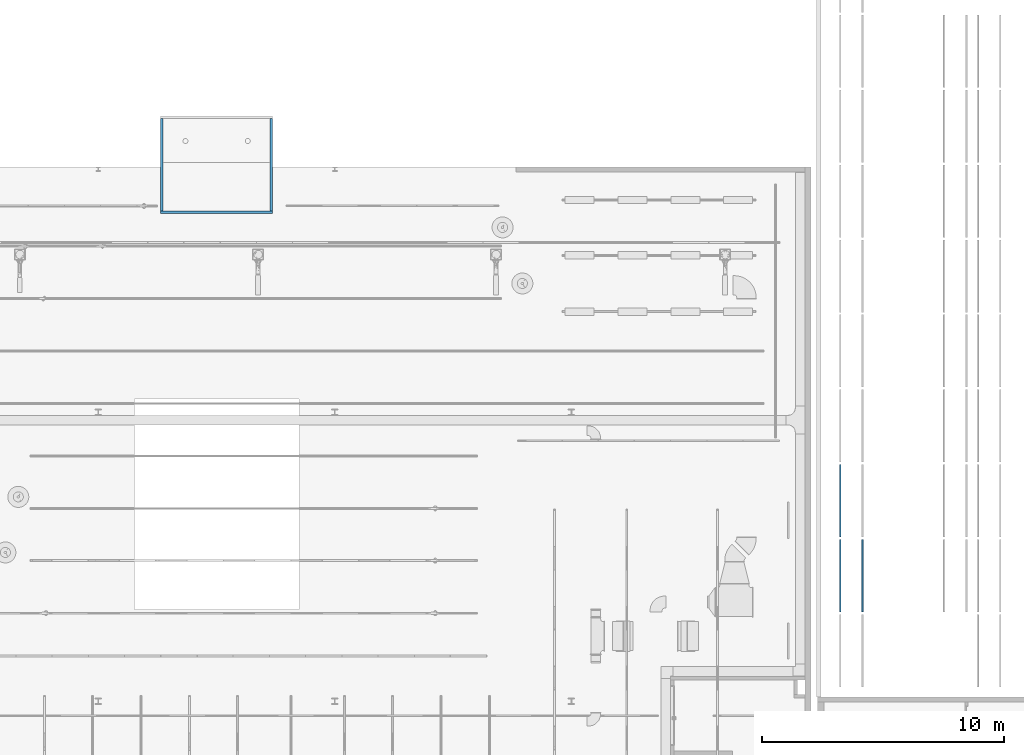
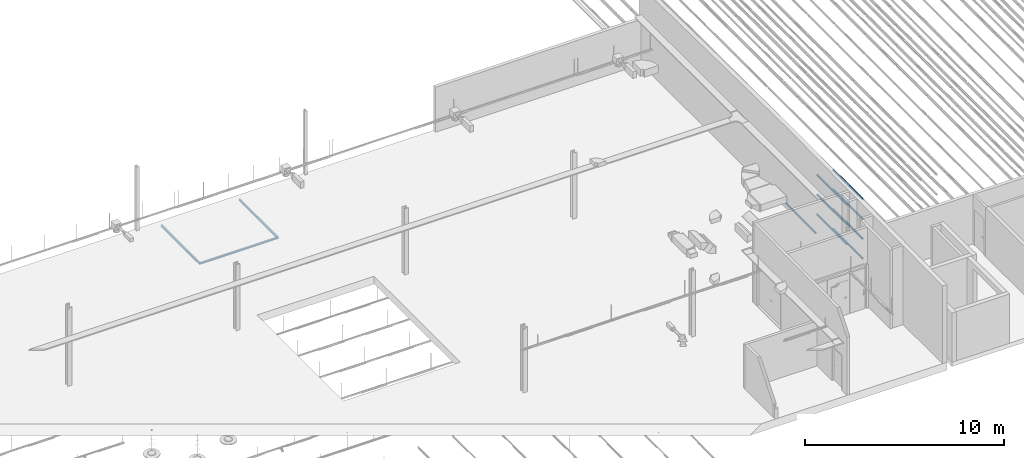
# One storey, part 9 of 290: 11 beams.
"""IFC2X3 building model written with IfcOpenShell, lengths in metres."""

from ifc_helpers import new_model, entity, si_unit, converted_unit, derived_unit, direction, frame, frame_2d, origin, place, context, subcontext, project, spatial, polyline, circle_curve, parameter, trimmed, segment, composite_curve, i_section, outline, extrude, material, type_object, element, save


model = new_model("IFC2X3")

# Units and contexts
model_context = context("Model", 3, precision=1e-05, world=origin(), true_north=direction((6.12303176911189e-17, 1.0)))
body_context = subcontext(model_context, "Body", "Model", "MODEL_VIEW")
ifc_project = project(units=[si_unit("LENGTHUNIT", "METRE"), si_unit("AREAUNIT", "SQUARE_METRE"), si_unit("VOLUMEUNIT", "CUBIC_METRE"), converted_unit("PLANEANGLEUNIT", "DEGREE", entity("IfcRatioMeasure", 0.0174532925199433), si_unit("PLANEANGLEUNIT", "RADIAN"), dimensions=[0, 0, 0, 0, 0, 0, 0]), si_unit("MASSUNIT", "GRAM", prefix="KILO"), derived_unit("MASSDENSITYUNIT", [(si_unit("MASSUNIT", "GRAM", prefix="KILO"), 1), (si_unit("LENGTHUNIT", "METRE"), -3)]), derived_unit("MOMENTOFINERTIAUNIT", [(si_unit("LENGTHUNIT", "METRE"), 4)]), si_unit("TIMEUNIT", "SECOND"), si_unit("FREQUENCYUNIT", "HERTZ"), si_unit("THERMODYNAMICTEMPERATUREUNIT", "DEGREE_CELSIUS"), derived_unit("THERMALTRANSMITTANCEUNIT", [(si_unit("MASSUNIT", "GRAM", prefix="KILO"), 1), (si_unit("THERMODYNAMICTEMPERATUREUNIT", "KELVIN"), -1), (si_unit("TIMEUNIT", "SECOND"), -3)]), derived_unit("VOLUMETRICFLOWRATEUNIT", [(si_unit("LENGTHUNIT", "METRE"), 3), (si_unit("TIMEUNIT", "SECOND"), -1)]), si_unit("ELECTRICCURRENTUNIT", "AMPERE"), si_unit("ELECTRICVOLTAGEUNIT", "VOLT"), si_unit("POWERUNIT", "WATT"), si_unit("FORCEUNIT", "NEWTON", prefix="KILO"), si_unit("ILLUMINANCEUNIT", "LUX"), si_unit("LUMINOUSFLUXUNIT", "LUMEN"), si_unit("LUMINOUSINTENSITYUNIT", "CANDELA"), derived_unit("USERDEFINED", [(si_unit("MASSUNIT", "GRAM", prefix="KILO"), -1), (si_unit("LENGTHUNIT", "METRE"), -2), (si_unit("TIMEUNIT", "SECOND"), 3), (si_unit("LUMINOUSFLUXUNIT", "LUMEN"), 1)]), derived_unit("LINEARVELOCITYUNIT", [(si_unit("LENGTHUNIT", "METRE"), 1), (si_unit("TIMEUNIT", "SECOND"), -1)]), si_unit("PRESSUREUNIT", "PASCAL"), derived_unit("USERDEFINED", [(si_unit("LENGTHUNIT", "METRE"), -2), (si_unit("MASSUNIT", "GRAM", prefix="KILO"), 1), (si_unit("TIMEUNIT", "SECOND"), -2)]), derived_unit("LINEARFORCEUNIT", [(si_unit("MASSUNIT", "GRAM", prefix="KILO"), 1), (si_unit("LENGTHUNIT", "METRE"), 1), (si_unit("TIMEUNIT", "SECOND"), -2), (si_unit("LENGTHUNIT", "METRE"), -1)]), derived_unit("PLANARFORCEUNIT", [(si_unit("MASSUNIT", "GRAM", prefix="KILO"), 1), (si_unit("LENGTHUNIT", "METRE"), 1), (si_unit("TIMEUNIT", "SECOND"), -2), (si_unit("LENGTHUNIT", "METRE"), -2)])], contexts=[model_context])

# Site, building, storey
site_placement = place(None, origin())
site = spatial("IfcSite", under=ifc_project, at=site_placement, Name="Default", CompositionType="ELEMENT")
building_placement = place(site_placement, origin())
building = spatial("IfcBuilding", under=site, at=building_placement, CompositionType="ELEMENT")
storey_placement = place(building_placement, frame((0.0, 0.0, 4.0)))
storey = spatial("IfcBuildingStorey", under=building, at=storey_placement, Name="01_OG", CompositionType="ELEMENT", Elevation=4.0)

# Beams
ifc_material_1 = material(Name="Metall - Baustahl S235")
beam_type_1 = type_object("IfcBeamType", Name="HEA Träger:HEA 100", PredefinedType="NOTDEFINED")
beam_1_placement = place(storey_placement, frame((-234.519861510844, 43.685588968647, -1.38399999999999), z_axis=(0.0, 0.0, 1.0), x_axis=(0.0, 1.0, 0.0)))
element("IfcBeam", 1, at=beam_1_placement, inside=storey, type_object=beam_type_1, material=ifc_material_1, Name="HEA Träger:HEA 100", ObjectType="HEA Träger:HEA 100", context=body_context, shape_type="SweptSolid", body=[
    extrude(i_section(OverallWidth=0.100000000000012, OverallDepth=0.0959999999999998, WebThickness=0.00500000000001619, FlangeThickness=0.00799999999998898, FilletRadius=0.0120000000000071, at=frame_2d((5.41233724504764e-16, 3.46493667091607e-14), x_axis=(0.0, 1.0))), frame((0.0525000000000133, 0.0, -0.0479999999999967), z_axis=(1.0, 0.0, 0.0), x_axis=(0.0, 0.0, -1.0)), (0.0, 0.0, 1.0), 3.82000000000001),
])
beam_2_placement = place(storey_placement, frame((-234.569861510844, 43.688088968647, -1.38400000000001)))
element("IfcBeam", 2, at=beam_2_placement, inside=storey, type_object=beam_type_1, material=ifc_material_1, Name="HEA Träger:HEA 100", ObjectType="HEA Träger:HEA 100", context=body_context, shape_type="SweptSolid", body=[
    extrude(i_section(OverallWidth=0.100000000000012, OverallDepth=0.0959999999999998, WebThickness=0.00499999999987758, FlangeThickness=0.00800000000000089, FilletRadius=0.011999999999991, at=frame_2d((5.41233724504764e-16, 0.0), x_axis=(0.0, 1.0))), frame((4.81070539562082e-05, 0.0, -0.0480000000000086), z_axis=(1.0, 0.0, 0.0), x_axis=(0.0, 0.0, -1.0)), (0.0, 0.0, 1.0), 4.6319037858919),
])
beam_3_placement = place(storey_placement, frame((-229.987861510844, 43.688088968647, -1.38399999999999), z_axis=(0.0, 0.0, 1.0), x_axis=(0.0, 1.0, 0.0)))
element("IfcBeam", 3, at=beam_3_placement, inside=storey, type_object=beam_type_1, material=ifc_material_1, Name="HEA Träger:HEA 100", ObjectType="HEA Träger:HEA 100", context=body_context, shape_type="SweptSolid", body=[
    extrude(i_section(OverallWidth=0.100000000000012, OverallDepth=0.0959999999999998, WebThickness=0.00500000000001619, FlangeThickness=0.00800000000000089, FilletRadius=0.0120000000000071, at=frame_2d((5.41233724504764e-16, 0.0), x_axis=(0.0, 1.0))), frame((0.0499999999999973, 0.0, -0.0480000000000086), z_axis=(1.0, 0.0, 0.0), x_axis=(0.0, 0.0, -1.0)), (0.0, 0.0, 1.0), 3.82),
])
ifc_material_2 = material(Name="Metall - Baustahl S235 blau")
beam_type_2 = type_object("IfcBeamType", Name="RHS Träger (EN 10219-2):RHS 100 x 75 x 5", PredefinedType="NOTDEFINED")
beam_4_placement = place(storey_placement, frame((-206.415111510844, 27.148088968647, 0.0150000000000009), z_axis=(0.0, 0.0, 1.0), x_axis=(0.0, 1.0, 0.0)))
element("IfcBeam", 4, at=beam_4_placement, inside=storey, type_object=beam_type_2, material=ifc_material_2, Name="RHS Träger (EN 10219-2):RHS 100 x 75 x 5", ObjectType="RHS Träger (EN 10219-2):RHS 100 x 75 x 5", context=body_context, shape_type="SweptSolid", body=[
    extrude(outline(composite_curve([segment(trimmed(circle_curve(frame_2d((-0.0274999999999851, -0.0400000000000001), x_axis=(1.0, 0.0)), 0.01), [parameter(180.0)], [parameter(270.0)], True, "PARAMETER"), True, "CONTINUOUS"), segment(polyline([(-0.0274999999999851, -0.05), (0.0274999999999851, -0.05)]), True, "CONTINUOUS"), segment(trimmed(circle_curve(frame_2d((0.0274999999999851, -0.0400000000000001), x_axis=(1.0, 0.0)), 0.01), [parameter(270.0)], [parameter(5.08888749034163e-14)], True, "PARAMETER"), True, "CONTINUOUS"), segment(polyline([(0.0375000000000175, -0.0400000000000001), (0.0375000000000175, 0.0400000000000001)]), True, "CONTINUOUS"), segment(trimmed(circle_curve(frame_2d((0.0274999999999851, 0.0400000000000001), x_axis=(1.0, 0.0)), 0.01), [parameter(360.0)], [parameter(89.9999999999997)], True, "PARAMETER"), True, "CONTINUOUS"), segment(polyline([(0.0274999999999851, 0.05), (-0.0274999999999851, 0.05)]), True, "CONTINUOUS"), segment(trimmed(circle_curve(frame_2d((-0.0274999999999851, 0.0400000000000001), x_axis=(1.0, 0.0)), 0.01), [parameter(90.0000000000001)], [parameter(180.0)], True, "PARAMETER"), True, "CONTINUOUS"), segment(polyline([(-0.0374999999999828, 0.0400000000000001), (-0.0374999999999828, -0.0400000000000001)]), True, "CONTINUOUS")], self_intersect=False), holes=[composite_curve([segment(polyline([(0.0274999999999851, -0.0450000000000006), (-0.0274999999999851, -0.0450000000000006)]), True, "CONTINUOUS"), segment(trimmed(circle_curve(frame_2d((-0.0274999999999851, -0.0400000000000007), x_axis=(1.0, 0.0)), 0.005), [parameter(180.0)], [parameter(270.0)], True, "PARAMETER"), False, "CONTINUOUS"), segment(polyline([(-0.0325000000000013, -0.0400000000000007), (-0.0325000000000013, 0.039999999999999)]), True, "CONTINUOUS"), segment(trimmed(circle_curve(frame_2d((-0.0274999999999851, 0.039999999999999), x_axis=(1.0, 0.0)), 0.005), [parameter(90.0000000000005)], [parameter(180.0)], True, "PARAMETER"), False, "CONTINUOUS"), segment(polyline([(-0.0274999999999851, 0.044999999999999), (0.0274999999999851, 0.044999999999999)]), True, "CONTINUOUS"), segment(trimmed(circle_curve(frame_2d((0.0274999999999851, 0.039999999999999), x_axis=(1.0, 0.0)), 0.005), [parameter(0.0)], [parameter(90.0000000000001)], True, "PARAMETER"), False, "CONTINUOUS"), segment(polyline([(0.0325000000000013, 0.039999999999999), (0.0325000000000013, -0.0400000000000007)]), True, "CONTINUOUS"), segment(trimmed(circle_curve(frame_2d((0.0274999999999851, -0.0400000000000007), x_axis=(1.0, 0.0)), 0.005), [parameter(270.0)], [parameter(4.07110999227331e-13)], True, "PARAMETER"), False, "CONTINUOUS")], self_intersect=False)]), frame((9.99999999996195e-05, 0.0375000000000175, -0.0500000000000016), z_axis=(1.0, 0.0, 0.0), x_axis=(0.0, -1.0, 0.0)), (0.0, 0.0, 1.0), 2.9998),
])
beam_5_placement = place(storey_placement, frame((-206.415111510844, 27.148088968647, 1.23), z_axis=(0.0, 0.0, 1.0), x_axis=(0.0, 1.0, 0.0)))
element("IfcBeam", 5, at=beam_5_placement, inside=storey, type_object=beam_type_2, material=ifc_material_2, Name="RHS Träger (EN 10219-2):RHS 100 x 75 x 5", ObjectType="RHS Träger (EN 10219-2):RHS 100 x 75 x 5", context=body_context, shape_type="SweptSolid", body=[
    extrude(outline(composite_curve([segment(trimmed(circle_curve(frame_2d((-0.0274999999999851, -0.0399999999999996), x_axis=(1.0, 0.0)), 0.01), [parameter(180.0)], [parameter(270.0)], True, "PARAMETER"), True, "CONTINUOUS"), segment(polyline([(-0.0274999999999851, -0.0499999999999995), (0.0274999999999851, -0.0499999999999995)]), True, "CONTINUOUS"), segment(trimmed(circle_curve(frame_2d((0.0274999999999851, -0.0399999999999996), x_axis=(1.0, 0.0)), 0.01), [parameter(270.0)], [parameter(5.08888749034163e-14)], True, "PARAMETER"), True, "CONTINUOUS"), segment(polyline([(0.0375000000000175, -0.0399999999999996), (0.0375000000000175, 0.0399999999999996)]), True, "CONTINUOUS"), segment(trimmed(circle_curve(frame_2d((0.0274999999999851, 0.0399999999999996), x_axis=(1.0, 0.0)), 0.01), [parameter(360.0)], [parameter(89.9999999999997)], True, "PARAMETER"), True, "CONTINUOUS"), segment(polyline([(0.0274999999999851, 0.0500000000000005), (-0.0274999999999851, 0.0500000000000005)]), True, "CONTINUOUS"), segment(trimmed(circle_curve(frame_2d((-0.0274999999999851, 0.0399999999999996), x_axis=(1.0, 0.0)), 0.01), [parameter(90.0000000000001)], [parameter(180.0)], True, "PARAMETER"), True, "CONTINUOUS"), segment(polyline([(-0.0374999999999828, 0.0399999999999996), (-0.0374999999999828, -0.0399999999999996)]), True, "CONTINUOUS")], self_intersect=False), holes=[composite_curve([segment(polyline([(0.0274999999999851, -0.0450000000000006), (-0.0274999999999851, -0.0450000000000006)]), True, "CONTINUOUS"), segment(trimmed(circle_curve(frame_2d((-0.0274999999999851, -0.0400000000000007), x_axis=(1.0, 0.0)), 0.005), [parameter(180.0)], [parameter(270.0)], True, "PARAMETER"), False, "CONTINUOUS"), segment(polyline([(-0.0325000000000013, -0.0400000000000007), (-0.0325000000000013, 0.0399999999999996)]), True, "CONTINUOUS"), segment(trimmed(circle_curve(frame_2d((-0.0274999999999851, 0.0399999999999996), x_axis=(1.0, 0.0)), 0.005), [parameter(90.0000000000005)], [parameter(180.0)], True, "PARAMETER"), False, "CONTINUOUS"), segment(polyline([(-0.0274999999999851, 0.0449999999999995), (0.0274999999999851, 0.0449999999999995)]), True, "CONTINUOUS"), segment(trimmed(circle_curve(frame_2d((0.0274999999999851, 0.0399999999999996), x_axis=(1.0, 0.0)), 0.005), [parameter(0.0)], [parameter(90.0000000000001)], True, "PARAMETER"), False, "CONTINUOUS"), segment(polyline([(0.0325000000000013, 0.0399999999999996), (0.0325000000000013, -0.0400000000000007)]), True, "CONTINUOUS"), segment(trimmed(circle_curve(frame_2d((0.0274999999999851, -0.0400000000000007), x_axis=(1.0, 0.0)), 0.005), [parameter(270.0)], [parameter(4.07110999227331e-13)], True, "PARAMETER"), False, "CONTINUOUS")], self_intersect=False)]), frame((9.99999999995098e-05, 0.0375000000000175, -0.0500000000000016), z_axis=(1.0, 0.0, 0.0), x_axis=(0.0, -1.0, 0.0)), (0.0, 0.0, 1.0), 2.9998),
])
beam_6_placement = place(storey_placement, frame((-206.415111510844, 27.148088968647, 2.445), z_axis=(0.0, 0.0, 1.0), x_axis=(0.0, 1.0, 0.0)))
element("IfcBeam", 6, at=beam_6_placement, inside=storey, type_object=beam_type_2, material=ifc_material_2, Name="RHS Träger (EN 10219-2):RHS 100 x 75 x 5", ObjectType="RHS Träger (EN 10219-2):RHS 100 x 75 x 5", context=body_context, shape_type="SweptSolid", body=[
    extrude(outline(composite_curve([segment(trimmed(circle_curve(frame_2d((-0.0274999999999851, -0.0399999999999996), x_axis=(1.0, 0.0)), 0.01), [parameter(180.0)], [parameter(270.0)], True, "PARAMETER"), True, "CONTINUOUS"), segment(polyline([(-0.0274999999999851, -0.0499999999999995), (0.0274999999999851, -0.0499999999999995)]), True, "CONTINUOUS"), segment(trimmed(circle_curve(frame_2d((0.0274999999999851, -0.0399999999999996), x_axis=(1.0, 0.0)), 0.01), [parameter(270.0)], [parameter(5.08888749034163e-14)], True, "PARAMETER"), True, "CONTINUOUS"), segment(polyline([(0.0375000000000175, -0.0399999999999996), (0.0375000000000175, 0.0399999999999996)]), True, "CONTINUOUS"), segment(trimmed(circle_curve(frame_2d((0.0274999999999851, 0.0399999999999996), x_axis=(1.0, 0.0)), 0.01), [parameter(360.0)], [parameter(89.9999999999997)], True, "PARAMETER"), True, "CONTINUOUS"), segment(polyline([(0.0274999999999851, 0.0500000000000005), (-0.0274999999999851, 0.0500000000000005)]), True, "CONTINUOUS"), segment(trimmed(circle_curve(frame_2d((-0.0274999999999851, 0.0399999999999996), x_axis=(1.0, 0.0)), 0.01), [parameter(90.0000000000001)], [parameter(180.0)], True, "PARAMETER"), True, "CONTINUOUS"), segment(polyline([(-0.0374999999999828, 0.0399999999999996), (-0.0374999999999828, -0.0399999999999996)]), True, "CONTINUOUS")], self_intersect=False), holes=[composite_curve([segment(polyline([(0.0274999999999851, -0.0450000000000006), (-0.0274999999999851, -0.0450000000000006)]), True, "CONTINUOUS"), segment(trimmed(circle_curve(frame_2d((-0.0274999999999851, -0.0400000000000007), x_axis=(1.0, 0.0)), 0.005), [parameter(180.0)], [parameter(270.0)], True, "PARAMETER"), False, "CONTINUOUS"), segment(polyline([(-0.0325000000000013, -0.0400000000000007), (-0.0325000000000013, 0.0399999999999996)]), True, "CONTINUOUS"), segment(trimmed(circle_curve(frame_2d((-0.0274999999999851, 0.0399999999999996), x_axis=(1.0, 0.0)), 0.005), [parameter(90.0000000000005)], [parameter(180.0)], True, "PARAMETER"), False, "CONTINUOUS"), segment(polyline([(-0.0274999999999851, 0.0449999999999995), (0.0274999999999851, 0.0449999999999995)]), True, "CONTINUOUS"), segment(trimmed(circle_curve(frame_2d((0.0274999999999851, 0.0399999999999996), x_axis=(1.0, 0.0)), 0.005), [parameter(0.0)], [parameter(90.0000000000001)], True, "PARAMETER"), False, "CONTINUOUS"), segment(polyline([(0.0325000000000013, 0.0399999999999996), (0.0325000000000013, -0.0400000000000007)]), True, "CONTINUOUS"), segment(trimmed(circle_curve(frame_2d((0.0274999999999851, -0.0400000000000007), x_axis=(1.0, 0.0)), 0.005), [parameter(270.0)], [parameter(4.07110999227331e-13)], True, "PARAMETER"), False, "CONTINUOUS")], self_intersect=False)]), frame((9.99999999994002e-05, 0.0375000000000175, -0.0500000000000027), z_axis=(1.0, 0.0, 0.0), x_axis=(0.0, -1.0, 0.0)), (0.0, 0.0, 1.0), 2.9998),
])
beam_7_placement = place(storey_placement, frame((-205.565111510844, 27.148088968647, -1.2), z_axis=(0.0, 0.0, 1.0), x_axis=(0.0, 1.0, 0.0)))
element("IfcBeam", 7, at=beam_7_placement, inside=storey, type_object=beam_type_2, material=ifc_material_2, Name="RHS Träger (EN 10219-2):RHS 100 x 75 x 5", ObjectType="RHS Träger (EN 10219-2):RHS 100 x 75 x 5", context=body_context, shape_type="SweptSolid", body=[
    extrude(outline(composite_curve([segment(polyline([(-0.0400000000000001, -0.0374999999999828), (0.0400000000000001, -0.0374999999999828)]), True, "CONTINUOUS"), segment(trimmed(circle_curve(frame_2d((0.0400000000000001, -0.0274999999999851), x_axis=(0.0, 1.0)), 0.01), [parameter(180.0)], [parameter(270.0)], True, "PARAMETER"), True, "CONTINUOUS"), segment(polyline([(0.05, -0.0274999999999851), (0.05, 0.0274999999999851)]), True, "CONTINUOUS"), segment(trimmed(circle_curve(frame_2d((0.0400000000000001, 0.0274999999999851), x_axis=(0.0, 1.0)), 0.01), [parameter(270.0)], [parameter(4.07110999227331e-13)], True, "PARAMETER"), True, "CONTINUOUS"), segment(polyline([(0.0400000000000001, 0.0375000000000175), (-0.0400000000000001, 0.0375000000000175)]), True, "CONTINUOUS"), segment(trimmed(circle_curve(frame_2d((-0.0400000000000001, 0.0274999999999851), x_axis=(0.0, 1.0)), 0.01), [parameter(360.0)], [parameter(90.0000000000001)], True, "PARAMETER"), True, "CONTINUOUS"), segment(polyline([(-0.05, 0.0274999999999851), (-0.05, -0.0274999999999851)]), True, "CONTINUOUS"), segment(trimmed(circle_curve(frame_2d((-0.0400000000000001, -0.0274999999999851), x_axis=(0.0, 1.0)), 0.01), [parameter(90.0000000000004)], [parameter(180.0)], True, "PARAMETER"), True, "CONTINUOUS")], self_intersect=False), holes=[composite_curve([segment(trimmed(circle_curve(frame_2d((-0.0400000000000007, 0.0274999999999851), x_axis=(0.0, 1.0)), 0.005), [parameter(360.0)], [parameter(89.9999999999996)], True, "PARAMETER"), False, "CONTINUOUS"), segment(polyline([(-0.0400000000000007, 0.0325000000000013), (0.039999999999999, 0.0325000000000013)]), True, "CONTINUOUS"), segment(trimmed(circle_curve(frame_2d((0.039999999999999, 0.0274999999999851), x_axis=(0.0, 1.0)), 0.005), [parameter(270.0)], [parameter(0.0)], True, "PARAMETER"), False, "CONTINUOUS"), segment(polyline([(0.044999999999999, 0.0274999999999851), (0.044999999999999, -0.0274999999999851)]), True, "CONTINUOUS"), segment(trimmed(circle_curve(frame_2d((0.039999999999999, -0.0274999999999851), x_axis=(0.0, 1.0)), 0.005), [parameter(180.0)], [parameter(269.999999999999)], True, "PARAMETER"), False, "CONTINUOUS"), segment(polyline([(0.039999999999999, -0.0325000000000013), (-0.0400000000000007, -0.0325000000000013)]), True, "CONTINUOUS"), segment(trimmed(circle_curve(frame_2d((-0.0400000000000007, -0.0274999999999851), x_axis=(0.0, 1.0)), 0.005), [parameter(90.0000000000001)], [parameter(180.0)], True, "PARAMETER"), False, "CONTINUOUS"), segment(polyline([(-0.0450000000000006, -0.0274999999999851), (-0.0450000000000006, 0.0274999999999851)]), True, "CONTINUOUS")], self_intersect=False)]), frame((9.99999999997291e-05, -0.0375000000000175, -0.0500000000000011), z_axis=(1.0, 0.0, 0.0), x_axis=(0.0, 0.0, -1.0)), (0.0, 0.0, 1.0), 2.9998),
])
beam_8_placement = place(storey_placement, frame((-205.565111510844, 27.148088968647, 0.0150000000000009), z_axis=(0.0, 0.0, 1.0), x_axis=(0.0, 1.0, 0.0)))
element("IfcBeam", 8, at=beam_8_placement, inside=storey, type_object=beam_type_2, material=ifc_material_2, Name="RHS Träger (EN 10219-2):RHS 100 x 75 x 5", ObjectType="RHS Träger (EN 10219-2):RHS 100 x 75 x 5", context=body_context, shape_type="SweptSolid", body=[
    extrude(outline(composite_curve([segment(polyline([(-0.0400000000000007, -0.0374999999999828), (0.0399999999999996, -0.0374999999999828)]), True, "CONTINUOUS"), segment(trimmed(circle_curve(frame_2d((0.0399999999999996, -0.0274999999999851), x_axis=(0.0, 1.0)), 0.01), [parameter(180.0)], [parameter(270.0)], True, "PARAMETER"), True, "CONTINUOUS"), segment(polyline([(0.0499999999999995, -0.0274999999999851), (0.0499999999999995, 0.0274999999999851)]), True, "CONTINUOUS"), segment(trimmed(circle_curve(frame_2d((0.0399999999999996, 0.0274999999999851), x_axis=(0.0, 1.0)), 0.01), [parameter(270.0)], [parameter(4.07110999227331e-13)], True, "PARAMETER"), True, "CONTINUOUS"), segment(polyline([(0.0399999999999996, 0.0375000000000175), (-0.0400000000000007, 0.0375000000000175)]), True, "CONTINUOUS"), segment(trimmed(circle_curve(frame_2d((-0.0400000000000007, 0.0274999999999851), x_axis=(0.0, 1.0)), 0.01), [parameter(360.0)], [parameter(90.0000000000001)], True, "PARAMETER"), True, "CONTINUOUS"), segment(polyline([(-0.0500000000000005, 0.0274999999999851), (-0.0500000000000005, -0.0274999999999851)]), True, "CONTINUOUS"), segment(trimmed(circle_curve(frame_2d((-0.0400000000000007, -0.0274999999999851), x_axis=(0.0, 1.0)), 0.01), [parameter(90.0000000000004)], [parameter(180.0)], True, "PARAMETER"), True, "CONTINUOUS")], self_intersect=False), holes=[composite_curve([segment(trimmed(circle_curve(frame_2d((-0.0400000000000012, 0.0274999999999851), x_axis=(0.0, 1.0)), 0.005), [parameter(360.0)], [parameter(89.9999999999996)], True, "PARAMETER"), False, "CONTINUOUS"), segment(polyline([(-0.0400000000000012, 0.0325000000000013), (0.0399999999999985, 0.0325000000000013)]), True, "CONTINUOUS"), segment(trimmed(circle_curve(frame_2d((0.0399999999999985, 0.0274999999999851), x_axis=(0.0, 1.0)), 0.005), [parameter(270.0)], [parameter(0.0)], True, "PARAMETER"), False, "CONTINUOUS"), segment(polyline([(0.0449999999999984, 0.0274999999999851), (0.0449999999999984, -0.0274999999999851)]), True, "CONTINUOUS"), segment(trimmed(circle_curve(frame_2d((0.0399999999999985, -0.0274999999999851), x_axis=(0.0, 1.0)), 0.005), [parameter(180.0)], [parameter(269.999999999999)], True, "PARAMETER"), False, "CONTINUOUS"), segment(polyline([(0.0399999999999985, -0.0325000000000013), (-0.0400000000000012, -0.0325000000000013)]), True, "CONTINUOUS"), segment(trimmed(circle_curve(frame_2d((-0.0400000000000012, -0.0274999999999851), x_axis=(0.0, 1.0)), 0.005), [parameter(90.0000000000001)], [parameter(180.0)], True, "PARAMETER"), False, "CONTINUOUS"), segment(polyline([(-0.0450000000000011, -0.0274999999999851), (-0.0450000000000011, 0.0274999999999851)]), True, "CONTINUOUS")], self_intersect=False)]), frame((9.99999999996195e-05, -0.0375000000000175, -0.0500000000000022), z_axis=(1.0, 0.0, 0.0), x_axis=(0.0, 0.0, -1.0)), (0.0, 0.0, 1.0), 2.9998),
])
beam_9_placement = place(storey_placement, frame((-205.565111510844, 27.148088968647, 1.23), z_axis=(0.0, 0.0, 1.0), x_axis=(0.0, 1.0, 0.0)))
element("IfcBeam", 9, at=beam_9_placement, inside=storey, type_object=beam_type_2, material=ifc_material_2, Name="RHS Träger (EN 10219-2):RHS 100 x 75 x 5", ObjectType="RHS Träger (EN 10219-2):RHS 100 x 75 x 5", context=body_context, shape_type="SweptSolid", body=[
    extrude(outline(composite_curve([segment(polyline([(-0.0399999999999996, -0.0374999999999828), (0.0399999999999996, -0.0374999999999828)]), True, "CONTINUOUS"), segment(trimmed(circle_curve(frame_2d((0.0399999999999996, -0.0274999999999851), x_axis=(0.0, 1.0)), 0.01), [parameter(180.0)], [parameter(270.0)], True, "PARAMETER"), True, "CONTINUOUS"), segment(polyline([(0.0500000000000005, -0.0274999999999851), (0.0500000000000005, 0.0274999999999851)]), True, "CONTINUOUS"), segment(trimmed(circle_curve(frame_2d((0.0399999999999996, 0.0274999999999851), x_axis=(0.0, 1.0)), 0.01), [parameter(270.0)], [parameter(4.07110999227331e-13)], True, "PARAMETER"), True, "CONTINUOUS"), segment(polyline([(0.0399999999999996, 0.0375000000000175), (-0.0399999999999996, 0.0375000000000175)]), True, "CONTINUOUS"), segment(trimmed(circle_curve(frame_2d((-0.0399999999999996, 0.0274999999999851), x_axis=(0.0, 1.0)), 0.01), [parameter(360.0)], [parameter(90.0000000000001)], True, "PARAMETER"), True, "CONTINUOUS"), segment(polyline([(-0.0499999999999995, 0.0274999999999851), (-0.0499999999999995, -0.0274999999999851)]), True, "CONTINUOUS"), segment(trimmed(circle_curve(frame_2d((-0.0399999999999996, -0.0274999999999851), x_axis=(0.0, 1.0)), 0.01), [parameter(90.0000000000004)], [parameter(180.0)], True, "PARAMETER"), True, "CONTINUOUS")], self_intersect=False), holes=[composite_curve([segment(trimmed(circle_curve(frame_2d((-0.0400000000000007, 0.0274999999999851), x_axis=(0.0, 1.0)), 0.005), [parameter(360.0)], [parameter(89.9999999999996)], True, "PARAMETER"), False, "CONTINUOUS"), segment(polyline([(-0.0400000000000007, 0.0325000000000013), (0.0399999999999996, 0.0325000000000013)]), True, "CONTINUOUS"), segment(trimmed(circle_curve(frame_2d((0.0399999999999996, 0.0274999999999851), x_axis=(0.0, 1.0)), 0.005), [parameter(270.0)], [parameter(0.0)], True, "PARAMETER"), False, "CONTINUOUS"), segment(polyline([(0.0449999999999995, 0.0274999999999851), (0.0449999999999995, -0.0274999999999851)]), True, "CONTINUOUS"), segment(trimmed(circle_curve(frame_2d((0.0399999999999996, -0.0274999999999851), x_axis=(0.0, 1.0)), 0.005), [parameter(180.0)], [parameter(269.999999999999)], True, "PARAMETER"), False, "CONTINUOUS"), segment(polyline([(0.0399999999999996, -0.0325000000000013), (-0.0400000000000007, -0.0325000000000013)]), True, "CONTINUOUS"), segment(trimmed(circle_curve(frame_2d((-0.0400000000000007, -0.0274999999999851), x_axis=(0.0, 1.0)), 0.005), [parameter(90.0000000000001)], [parameter(180.0)], True, "PARAMETER"), False, "CONTINUOUS"), segment(polyline([(-0.0450000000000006, -0.0274999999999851), (-0.0450000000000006, 0.0274999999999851)]), True, "CONTINUOUS")], self_intersect=False)]), frame((9.99999999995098e-05, -0.0375000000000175, -0.0500000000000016), z_axis=(1.0, 0.0, 0.0), x_axis=(0.0, 0.0, -1.0)), (0.0, 0.0, 1.0), 2.9998),
])
beam_10_placement = place(storey_placement, frame((-205.565111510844, 27.148088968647, 2.445), z_axis=(0.0, 0.0, 1.0), x_axis=(0.0, 1.0, 0.0)))
element("IfcBeam", 10, at=beam_10_placement, inside=storey, type_object=beam_type_2, material=ifc_material_2, Name="RHS Träger (EN 10219-2):RHS 100 x 75 x 5", ObjectType="RHS Träger (EN 10219-2):RHS 100 x 75 x 5", context=body_context, shape_type="SweptSolid", body=[
    extrude(outline(composite_curve([segment(polyline([(-0.0399999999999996, -0.0374999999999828), (0.0399999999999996, -0.0374999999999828)]), True, "CONTINUOUS"), segment(trimmed(circle_curve(frame_2d((0.0399999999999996, -0.0274999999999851), x_axis=(0.0, 1.0)), 0.01), [parameter(180.0)], [parameter(270.0)], True, "PARAMETER"), True, "CONTINUOUS"), segment(polyline([(0.0500000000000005, -0.0274999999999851), (0.0500000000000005, 0.0274999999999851)]), True, "CONTINUOUS"), segment(trimmed(circle_curve(frame_2d((0.0399999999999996, 0.0274999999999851), x_axis=(0.0, 1.0)), 0.01), [parameter(270.0)], [parameter(4.07110999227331e-13)], True, "PARAMETER"), True, "CONTINUOUS"), segment(polyline([(0.0399999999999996, 0.0375000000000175), (-0.0399999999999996, 0.0375000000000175)]), True, "CONTINUOUS"), segment(trimmed(circle_curve(frame_2d((-0.0399999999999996, 0.0274999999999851), x_axis=(0.0, 1.0)), 0.01), [parameter(360.0)], [parameter(90.0000000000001)], True, "PARAMETER"), True, "CONTINUOUS"), segment(polyline([(-0.0499999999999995, 0.0274999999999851), (-0.0499999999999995, -0.0274999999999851)]), True, "CONTINUOUS"), segment(trimmed(circle_curve(frame_2d((-0.0399999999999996, -0.0274999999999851), x_axis=(0.0, 1.0)), 0.01), [parameter(90.0000000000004)], [parameter(180.0)], True, "PARAMETER"), True, "CONTINUOUS")], self_intersect=False), holes=[composite_curve([segment(trimmed(circle_curve(frame_2d((-0.0400000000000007, 0.0274999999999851), x_axis=(0.0, 1.0)), 0.005), [parameter(360.0)], [parameter(89.9999999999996)], True, "PARAMETER"), False, "CONTINUOUS"), segment(polyline([(-0.0400000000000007, 0.0325000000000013), (0.0399999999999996, 0.0325000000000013)]), True, "CONTINUOUS"), segment(trimmed(circle_curve(frame_2d((0.0399999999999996, 0.0274999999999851), x_axis=(0.0, 1.0)), 0.005), [parameter(270.0)], [parameter(0.0)], True, "PARAMETER"), False, "CONTINUOUS"), segment(polyline([(0.0449999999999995, 0.0274999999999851), (0.0449999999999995, -0.0274999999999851)]), True, "CONTINUOUS"), segment(trimmed(circle_curve(frame_2d((0.0399999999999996, -0.0274999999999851), x_axis=(0.0, 1.0)), 0.005), [parameter(180.0)], [parameter(269.999999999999)], True, "PARAMETER"), False, "CONTINUOUS"), segment(polyline([(0.0399999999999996, -0.0325000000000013), (-0.0400000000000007, -0.0325000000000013)]), True, "CONTINUOUS"), segment(trimmed(circle_curve(frame_2d((-0.0400000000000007, -0.0274999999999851), x_axis=(0.0, 1.0)), 0.005), [parameter(90.0000000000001)], [parameter(180.0)], True, "PARAMETER"), False, "CONTINUOUS"), segment(polyline([(-0.0450000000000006, -0.0274999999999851), (-0.0450000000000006, 0.0274999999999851)]), True, "CONTINUOUS")], self_intersect=False)]), frame((9.99999999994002e-05, -0.0375000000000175, -0.0500000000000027), z_axis=(1.0, 0.0, 0.0), x_axis=(0.0, 0.0, -1.0)), (0.0, 0.0, 1.0), 2.9998),
])
beam_11_placement = place(storey_placement, frame((-206.415111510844, 30.248088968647, -1.2), z_axis=(0.0, 0.0, 1.0), x_axis=(0.0, 1.0, 0.0)))
element("IfcBeam", 11, at=beam_11_placement, inside=storey, type_object=beam_type_2, material=ifc_material_2, Name="RHS Träger (EN 10219-2):RHS 100 x 75 x 5", ObjectType="RHS Träger (EN 10219-2):RHS 100 x 75 x 5", context=body_context, shape_type="SweptSolid", body=[
    extrude(outline(composite_curve([segment(trimmed(circle_curve(frame_2d((-0.0274999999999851, -0.0400000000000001), x_axis=(1.0, 0.0)), 0.01), [parameter(180.0)], [parameter(270.0)], True, "PARAMETER"), True, "CONTINUOUS"), segment(polyline([(-0.0274999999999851, -0.05), (0.0274999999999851, -0.05)]), True, "CONTINUOUS"), segment(trimmed(circle_curve(frame_2d((0.0274999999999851, -0.0400000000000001), x_axis=(1.0, 0.0)), 0.01), [parameter(270.0)], [parameter(5.08888749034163e-14)], True, "PARAMETER"), True, "CONTINUOUS"), segment(polyline([(0.0375000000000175, -0.0400000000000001), (0.0375000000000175, 0.0400000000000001)]), True, "CONTINUOUS"), segment(trimmed(circle_curve(frame_2d((0.0274999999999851, 0.0400000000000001), x_axis=(1.0, 0.0)), 0.01), [parameter(360.0)], [parameter(89.9999999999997)], True, "PARAMETER"), True, "CONTINUOUS"), segment(polyline([(0.0274999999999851, 0.05), (-0.0274999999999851, 0.05)]), True, "CONTINUOUS"), segment(trimmed(circle_curve(frame_2d((-0.0274999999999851, 0.0400000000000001), x_axis=(1.0, 0.0)), 0.01), [parameter(90.0000000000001)], [parameter(180.0)], True, "PARAMETER"), True, "CONTINUOUS"), segment(polyline([(-0.0374999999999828, 0.0400000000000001), (-0.0374999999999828, -0.0400000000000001)]), True, "CONTINUOUS")], self_intersect=False), holes=[composite_curve([segment(polyline([(0.0274999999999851, -0.0450000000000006), (-0.0274999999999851, -0.0450000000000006)]), True, "CONTINUOUS"), segment(trimmed(circle_curve(frame_2d((-0.0274999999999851, -0.0400000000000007), x_axis=(1.0, 0.0)), 0.005), [parameter(180.0)], [parameter(270.0)], True, "PARAMETER"), False, "CONTINUOUS"), segment(polyline([(-0.0325000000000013, -0.0400000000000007), (-0.0325000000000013, 0.039999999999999)]), True, "CONTINUOUS"), segment(trimmed(circle_curve(frame_2d((-0.0274999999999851, 0.039999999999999), x_axis=(1.0, 0.0)), 0.005), [parameter(90.0000000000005)], [parameter(180.0)], True, "PARAMETER"), False, "CONTINUOUS"), segment(polyline([(-0.0274999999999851, 0.044999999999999), (0.0274999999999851, 0.044999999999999)]), True, "CONTINUOUS"), segment(trimmed(circle_curve(frame_2d((0.0274999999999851, 0.039999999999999), x_axis=(1.0, 0.0)), 0.005), [parameter(0.0)], [parameter(90.0000000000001)], True, "PARAMETER"), False, "CONTINUOUS"), segment(polyline([(0.0325000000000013, 0.039999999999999), (0.0325000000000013, -0.0400000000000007)]), True, "CONTINUOUS"), segment(trimmed(circle_curve(frame_2d((0.0274999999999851, -0.0400000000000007), x_axis=(1.0, 0.0)), 0.005), [parameter(270.0)], [parameter(4.07110999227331e-13)], True, "PARAMETER"), False, "CONTINUOUS")], self_intersect=False)]), frame((9.99999999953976e-05, 0.0375000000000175, -0.0500000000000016), z_axis=(1.0, 0.0, 0.0), x_axis=(0.0, -1.0, 0.0)), (0.0, 0.0, 1.0), 2.9998),
])

save(model, "model.ifc")
